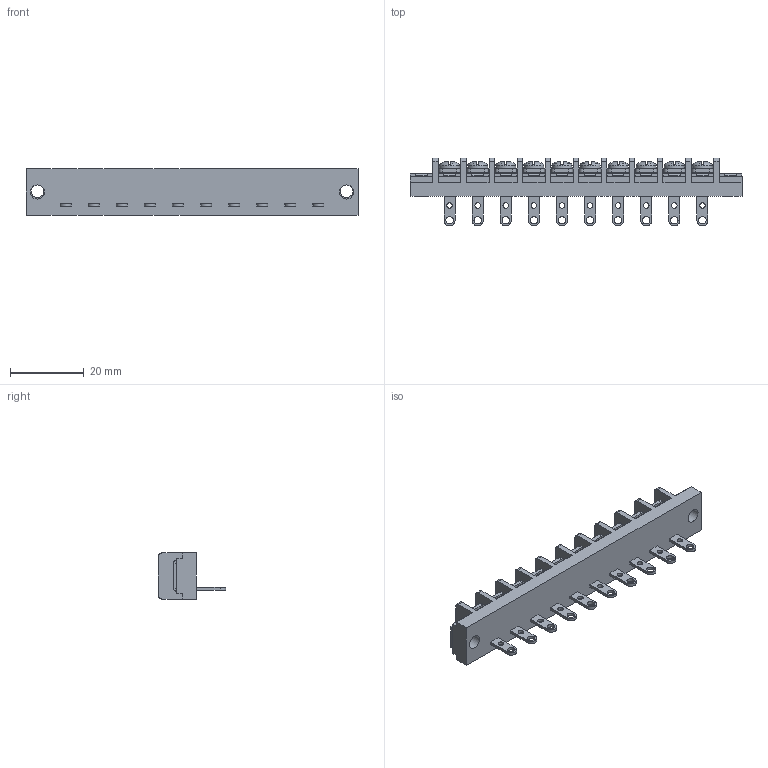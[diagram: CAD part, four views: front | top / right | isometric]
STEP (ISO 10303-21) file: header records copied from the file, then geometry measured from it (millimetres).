
FILE_DESCRIPTION(/* description */ ('Alibre Inc.'),/* implementation_level */ '2;1');
FILE_NAME(/* name */ 'export0',/* time_stamp */ '2015-10-26T18:07:25+09:00',/* author */ (''),/* organization */ (''),/* preprocessor_version */ 'ST-DEVELOPER v14',/* originating_system */ 'Alibre',/* authorisation */ '');
FILE_SCHEMA (('CONFIG_CONTROL_DESIGN'));
Length unit declared in the file: centimetre
Products named in the file (1): ID_1
Bounding box: 90.02 x 18.3 x 12.5 mm (x, y, z)
Volume: 7864.7 mm3; surface area: 7407.8 mm2
Topology: 1 solids, 17 shells, 1436 faces, 3926 edges, 2586 vertices
Faces by surface type: plane 1102, cylinder 150, bspline 104, cone 40, torus 20, sphere 20
Full cylindrical faces by diameter (mm): 1.5 x10, 2 x10, 3 x10, 3.5 x2, 3.8 x2, 5.5 x10
Entity records: 43055 total; most frequent: CARTESIAN_POINT 9439, ORIENTED_EDGE 7636, DIRECTION 5372, EDGE_CURVE 3818, VECTOR 2696, LINE 2696, VERTEX_POINT 2542, AXIS2_PLACEMENT_3D 1833
